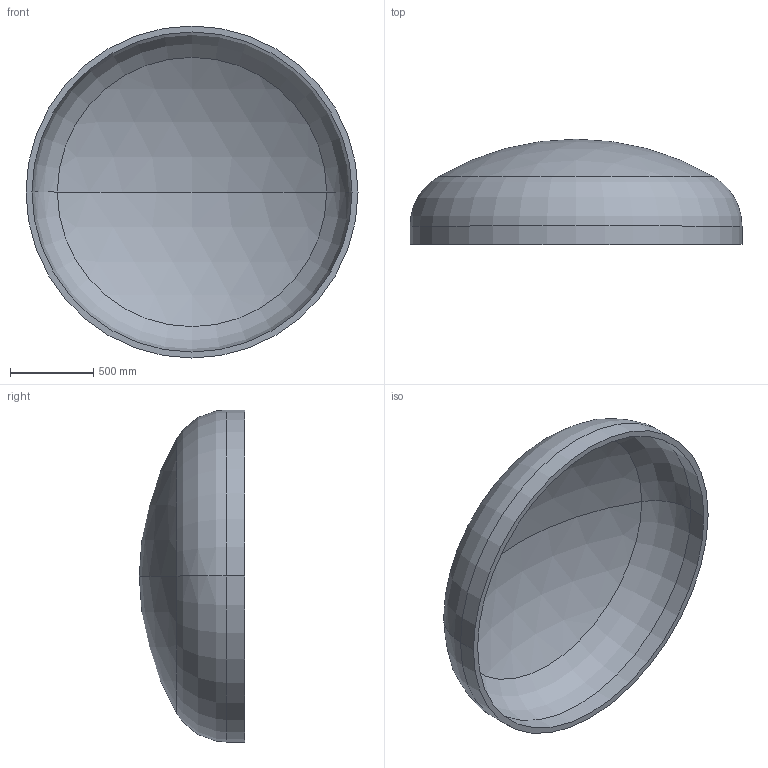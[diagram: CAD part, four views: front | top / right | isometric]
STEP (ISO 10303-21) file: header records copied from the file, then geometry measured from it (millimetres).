
FILE_DESCRIPTION (( 'STEP AP203' ), '1' );
FILE_NAME ('DIN 28013 Korbbogenform_-_Boden DIN 28013 - 2000 x 110 - I - s=36.step', '2016-07-01T13:49:17', ( '' ), ( '' ), 'SwSTEP 2.0', 'SolidWorks 2013', '' );
FILE_SCHEMA (( 'CONFIG_CONTROL_DESIGN' ));
Length unit declared in the file: millimetre
Products named in the file (1): DIN 28013 Korbbogenform_-_Boden DIN 28013 - 2000 x 110 - I - s=36
Bounding box: 2000 x 634.07 x 2000 mm (x, y, z)
Volume: 177595374.6 mm3; surface area: 10091244 mm2
Topology: 1 solids, 1 shells, 13 faces, 24 edges, 14 vertices
Faces by surface type: torus 4, cylinder 4, sphere 4, plane 1
Entity records: 407 total; most frequent: DIRECTION 72, CARTESIAN_POINT 52, ORIENTED_EDGE 48, AXIS2_PLACEMENT_3D 34, EDGE_CURVE 24, CIRCLE 20, VERTEX_POINT 14, EDGE_LOOP 14
